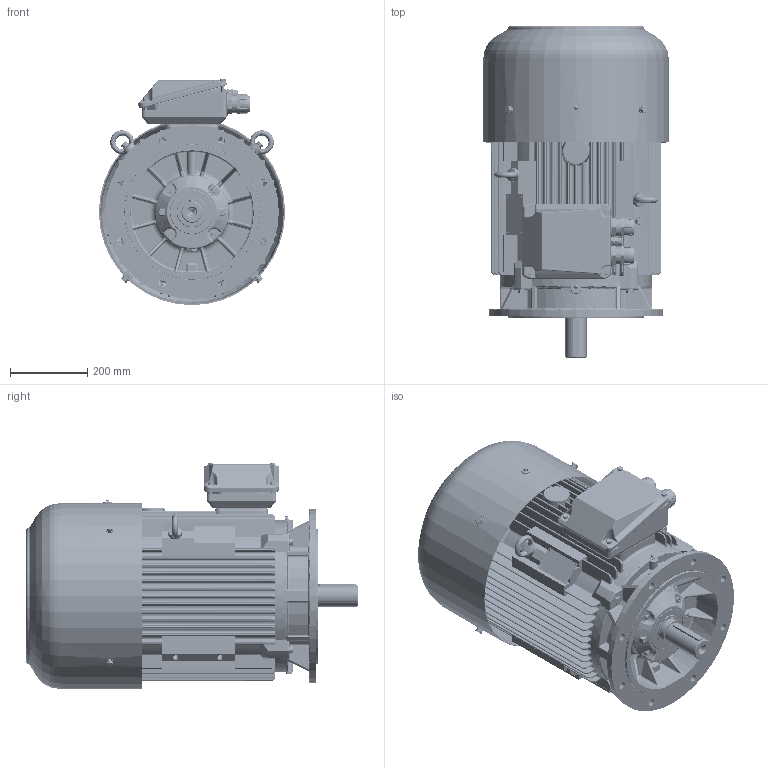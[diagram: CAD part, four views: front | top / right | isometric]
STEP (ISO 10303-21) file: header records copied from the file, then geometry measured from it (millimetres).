
FILE_DESCRIPTION(/* description */ ('Unknown'),/* implementation_level */ '2;1');
FILE_NAME(/* name */ 'SIEK225M2-K',/* time_stamp */ '2021-12-28T13:25:03+01:00',/* author */ ('Unknown'),/* organization */ ('Unknown'),/* preprocessor_version */ 'ST-DEVELOPER v16.7',/* originating_system */ 'DEX',/* authorisation */ $);
FILE_SCHEMA (('AUTOMOTIVE_DESIGN {1 0 10303 214 3 1 1}'));
Products named in the file (1): SIEK225M2-K
Bounding box: 483 x 860 x 586.9 mm (x, y, z)
Volume: 15108205.4 mm3; surface area: 4716575.9 mm2
Topology: 1 solids, 22 shells, 9023 faces, 24229 edges, 15073 vertices
Faces by surface type: plane 4636, cylinder 2087, bspline 1133, torus 684, cone 277, sphere 206
Full cylindrical faces by diameter (mm): 1.5 x2, 3 x2, 3.242 x2, 3.5 x4, 4 x2, 5 x2, 6 x6, 6.466 x5, 6.647 x12, 8 x15, 8.16 x5, 8.36 x2, 8.376 x7, 8.917 x2, 9 x9, 9.091 x1, 9.853 x4, 10 x23, 10.106 x4, 10.5 x4, 11 x1, 11.63 x5, 12 x8, 13 x7, 13.835 x4, 14 x10, 14.376 x9, 14.63 x5, 16.63 x4, 17 x1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
Entity records: 363163 total; most frequent: CARTESIAN_POINT 80414, ORIENTED_EDGE 46552, DIRECTION 43298, EDGE_CURVE 23276, VERTEX_POINT 14776, AXIS2_PLACEMENT_3D 14598, LINE 14102, VECTOR 14102
